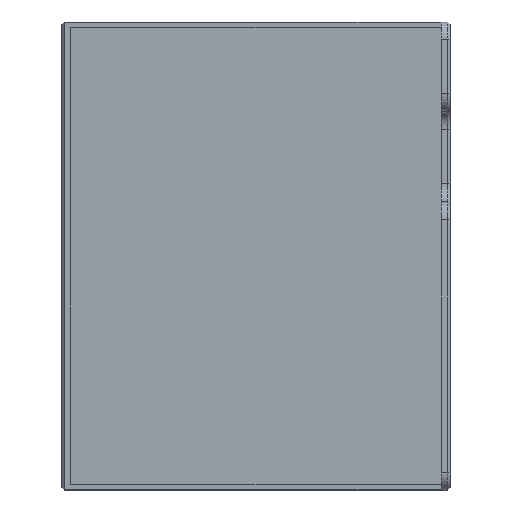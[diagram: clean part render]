
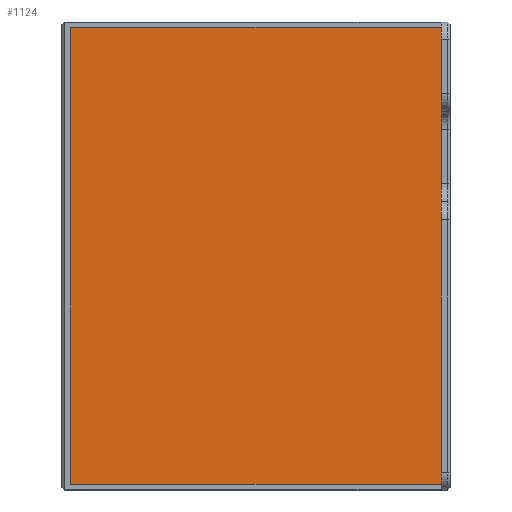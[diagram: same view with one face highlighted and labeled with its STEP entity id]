
A CAD part, top view. The second image highlights one B-rep face of the part: STEP entity #1124.
In plain terms, the highlighted planar face has unit normal (0, 0, 1) as drawn and (0, 0, -1) by its records, which use the part's own axes.
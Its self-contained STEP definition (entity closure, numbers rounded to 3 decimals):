
#104=FACE_OUTER_BOUND('',#170,.T.);
#170=EDGE_LOOP('',(#868,#869,#870,#871,#872,#873,#874,#875));
#267=LINE('',#1766,#397);
#271=LINE('',#1774,#401);
#272=LINE('',#1776,#402);
#273=LINE('',#1778,#403);
#274=LINE('',#1780,#404);
#275=LINE('',#1782,#405);
#276=LINE('',#1784,#406);
#277=LINE('',#1785,#407);
#397=VECTOR('',#1441,10.);
#401=VECTOR('',#1447,10.);
#402=VECTOR('',#1448,10.);
#403=VECTOR('',#1449,10.);
#404=VECTOR('',#1450,10.);
#405=VECTOR('',#1451,10.);
#406=VECTOR('',#1452,10.);
#407=VECTOR('',#1453,10.);
#509=VERTEX_POINT('',#1764);
#510=VERTEX_POINT('',#1765);
#513=VERTEX_POINT('',#1773);
#514=VERTEX_POINT('',#1775);
#515=VERTEX_POINT('',#1777);
#516=VERTEX_POINT('',#1779);
#517=VERTEX_POINT('',#1781);
#518=VERTEX_POINT('',#1783);
#640=EDGE_CURVE('',#509,#510,#267,.T.);
#644=EDGE_CURVE('',#513,#509,#271,.T.);
#645=EDGE_CURVE('',#514,#513,#272,.T.);
#646=EDGE_CURVE('',#515,#514,#273,.T.);
#647=EDGE_CURVE('',#516,#515,#274,.T.);
#648=EDGE_CURVE('',#516,#517,#275,.T.);
#649=EDGE_CURVE('',#518,#517,#276,.T.);
#650=EDGE_CURVE('',#518,#510,#277,.T.);
#868=ORIENTED_EDGE('',*,*,#640,.F.);
#869=ORIENTED_EDGE('',*,*,#644,.F.);
#870=ORIENTED_EDGE('',*,*,#645,.F.);
#871=ORIENTED_EDGE('',*,*,#646,.F.);
#872=ORIENTED_EDGE('',*,*,#647,.F.);
#873=ORIENTED_EDGE('',*,*,#648,.T.);
#874=ORIENTED_EDGE('',*,*,#649,.F.);
#875=ORIENTED_EDGE('',*,*,#650,.T.);
#1066=PLANE('',#1221);
#1124=ADVANCED_FACE('',(#104),#1066,.F.);
#1221=AXIS2_PLACEMENT_3D('',#1772,#1445,#1446);
#1441=DIRECTION('',(0.707,-0.707,0.));
#1445=DIRECTION('center_axis',(0.,0.,1.));
#1446=DIRECTION('ref_axis',(0.,1.,0.));
#1447=DIRECTION('',(0.,-1.,0.));
#1448=DIRECTION('',(-0.707,-0.707,0.));
#1449=DIRECTION('',(-1.,0.,0.));
#1450=DIRECTION('',(-0.707,0.707,0.));
#1451=DIRECTION('',(0.,-1.,0.));
#1452=DIRECTION('',(0.707,0.707,0.));
#1453=DIRECTION('',(-1.,0.,0.));
#1764=CARTESIAN_POINT('',(-106.,-107.25,-46.75));
#1765=CARTESIAN_POINT('',(-105.,-108.25,-46.75));
#1766=CARTESIAN_POINT('',(-79.375,-133.875,-46.75));
#1772=CARTESIAN_POINT('Origin',(-1.5,-108.25,-46.75));
#1773=CARTESIAN_POINT('',(-106.,17.25,-46.75));
#1774=CARTESIAN_POINT('',(-106.,-76.625,-46.75));
#1775=CARTESIAN_POINT('',(-105.,18.25,-46.75));
#1776=CARTESIAN_POINT('',(-111.,12.25,-46.75));
#1777=CARTESIAN_POINT('',(-2.5,18.25,-46.75));
#1778=CARTESIAN_POINT('',(-1.5,18.25,-46.75));
#1779=CARTESIAN_POINT('',(-1.5,17.25,-46.75));
#1780=CARTESIAN_POINT('',(29.625,-13.875,-46.75));
#1781=CARTESIAN_POINT('',(-1.5,-107.25,-46.75));
#1782=CARTESIAN_POINT('',(-1.5,-76.625,-46.75));
#1783=CARTESIAN_POINT('',(-2.5,-108.25,-46.75));
#1784=CARTESIAN_POINT('',(-2.,-107.75,-46.75));
#1785=CARTESIAN_POINT('',(-1.5,-108.25,-46.75));
